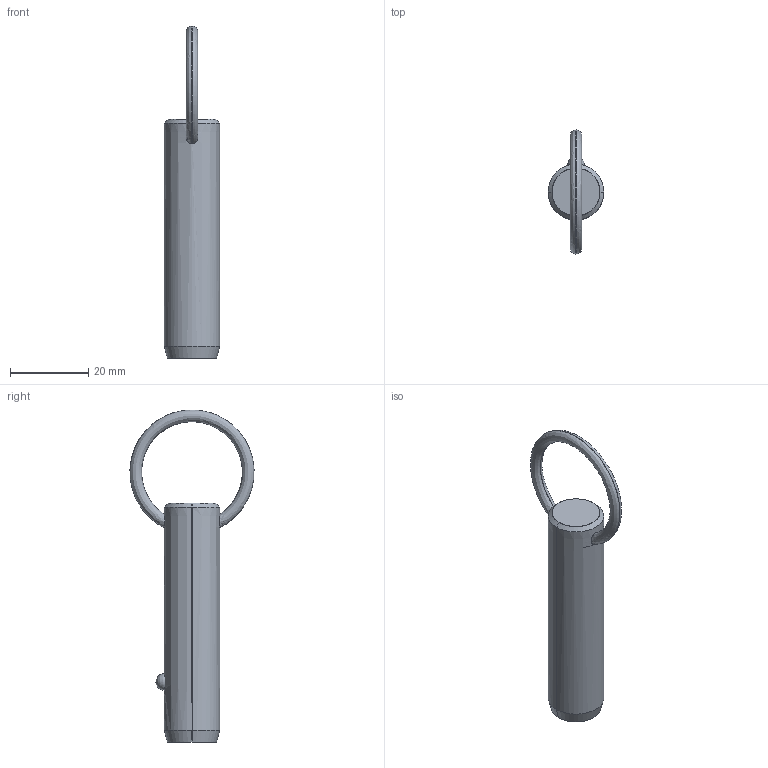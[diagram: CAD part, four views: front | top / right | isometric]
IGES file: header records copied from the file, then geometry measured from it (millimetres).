
Start section: SolidWorks IGES file using analytic representation for surfaces
Global section: file name: C:\Users\liam_\OneDrive\Documents\WORK\Work for WixRoyd\Job Files\J-00019 - Matt Davis CAD Checking\04. CAD Drawings\automotion20190605\P1250.2_v2\P1250.2_v2_20190729_IGES\P1250.056-140.igs; native system: SolidWorks 2017; preprocessor: SolidWorks 2017; author: liam_; date: 190729.231551; units: millimetre
Bounding box: 14.2 x 31.67 x 84.69 mm (x, y, z)
Surface area: 3682.6 mm2 (no closed solid volume)
Topology: 0 solids, 0 shells, 12 faces, 285 edges, 283 vertices
Faces by surface type: revolution 8, bspline 4
